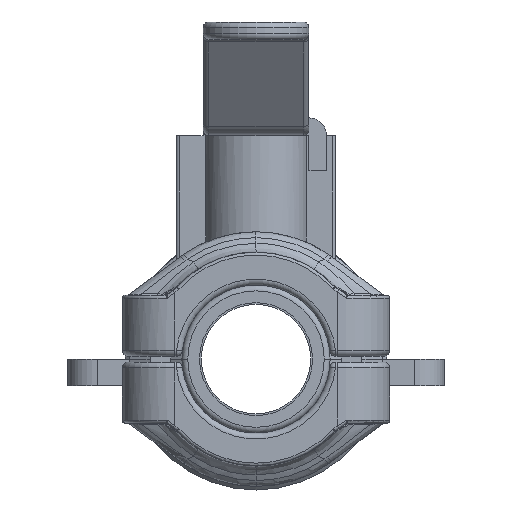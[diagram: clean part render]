
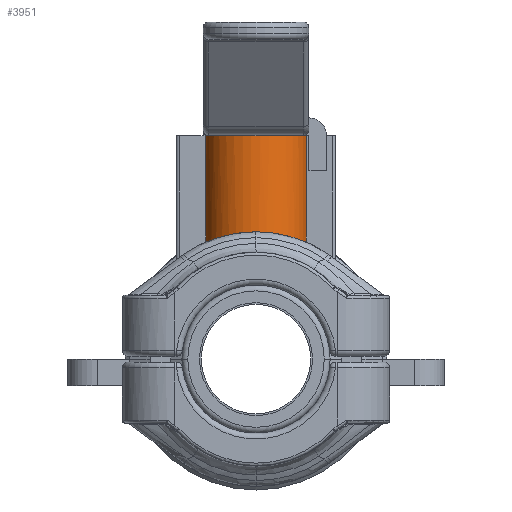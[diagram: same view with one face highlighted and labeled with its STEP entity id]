
A CAD part, left-side view. The second image highlights one B-rep face of the part: STEP entity #3951.
In plain terms, the highlighted cylindrical face has radius 9.006 mm (diameter 18.012 mm), a partial arc.
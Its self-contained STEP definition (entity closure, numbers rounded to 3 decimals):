
#781=CARTESIAN_POINT('',(55.655,0.,38.452));
#782=DIRECTION('',(0.,0.,1.));
#783=DIRECTION('',(-0.438,0.899,0.));
#784=AXIS2_PLACEMENT_3D('',#781,#782,#783);
#789=DIRECTION('',(0.,0.,1.));
#790=VECTOR('',#789,18.487);
#791=CARTESIAN_POINT('',(53.125,-8.643,19.965));
#792=LINE('',#791,#790);
#796=CARTESIAN_POINT('',(53.125,-8.643,19.965));
#797=CARTESIAN_POINT('',(52.567,-8.48,20.036));
#798=CARTESIAN_POINT('',(51.47,-8.042,20.221));
#799=CARTESIAN_POINT('',(49.938,-7.04,20.598));
#800=CARTESIAN_POINT('',(48.629,-5.733,21.004));
#801=CARTESIAN_POINT('',(47.627,-4.211,21.365));
#802=CARTESIAN_POINT('',(46.963,-2.565,21.626));
#803=CARTESIAN_POINT('',(46.635,-0.861,21.762));
#804=CARTESIAN_POINT('',(46.635,0.86,21.762));
#805=CARTESIAN_POINT('',(46.963,2.565,21.626));
#806=CARTESIAN_POINT('',(47.627,4.211,21.365));
#807=CARTESIAN_POINT('',(48.629,5.733,21.004));
#808=CARTESIAN_POINT('',(49.938,7.04,20.598));
#809=CARTESIAN_POINT('',(51.47,8.042,20.221));
#810=CARTESIAN_POINT('',(52.567,8.48,20.036));
#811=CARTESIAN_POINT('',(53.125,8.643,19.965));
#2055=DIRECTION('',(0.,0.,-1.));
#2056=VECTOR('',#2055,18.648);
#2057=CARTESIAN_POINT('',(53.125,8.643,38.614));
#2058=LINE('',#2057,#2056);
#2077=CARTESIAN_POINT('',(51.708,8.095,38.452));
#2078=CARTESIAN_POINT('',(51.936,8.206,38.452));
#2079=CARTESIAN_POINT('',(52.401,8.409,38.488));
#2080=CARTESIAN_POINT('',(52.881,8.572,38.568));
#2081=CARTESIAN_POINT('',(53.125,8.643,38.614));
#3098=VERTEX_POINT('',#796);
#3099=VERTEX_POINT('',#811);
#3142=CARTESIAN_POINT('',(53.125,-8.643,38.452));
#3143=VERTEX_POINT('',#3142);
#3239=CARTESIAN_POINT('',(51.708,8.095,38.452));
#3241=VERTEX_POINT('',#3239);
#3286=VERTEX_POINT('',#2081);
#3936=CARTESIAN_POINT('',(55.655,0.,38.452));
#3937=DIRECTION('',(0.,0.,1.));
#3938=DIRECTION('',(1.,0.,0.));
#3939=AXIS2_PLACEMENT_3D('',#3936,#3937,#3938);
#3940=CYLINDRICAL_SURFACE('',#3939,9.006);
#3942=ORIENTED_EDGE('',*,*,#3941,.F.);
#3944=ORIENTED_EDGE('',*,*,#3943,.F.);
#3945=ORIENTED_EDGE('',*,*,#3544,.T.);
#3946=ORIENTED_EDGE('',*,*,#3852,.F.);
#3948=ORIENTED_EDGE('',*,*,#3947,.T.);
#3949=EDGE_LOOP('',(#3942,#3944,#3945,#3946,#3948));
#3950=FACE_OUTER_BOUND('',#3949,.F.);
#785=CIRCLE('',#784,9.006);
#812=B_SPLINE_CURVE_WITH_KNOTS('',3,(#796,#797,#798,#799,#800,#801,#802,#803,
#804,#805,#806,#807,#808,#809,#810,#811),.UNSPECIFIED.,.F.,.F.,(4,1,1,1,1,1,1,1,
1,1,1,1,1,4),(0.,0.077,0.154,0.231,
0.308,0.385,0.462,0.538,
0.615,0.692,0.769,0.846,
0.923,1.),.UNSPECIFIED.);
#2082=B_SPLINE_CURVE_WITH_KNOTS('',3,(#2077,#2078,#2079,#2080,#2081),
.UNSPECIFIED.,.F.,.F.,(4,1,4),(0.,0.5,1.),.UNSPECIFIED.);
#3544=EDGE_CURVE('',#3241,#3143,#785,.T.);
#3852=EDGE_CURVE('',#3098,#3143,#792,.T.);
#3941=EDGE_CURVE('',#3286,#3099,#2058,.T.);
#3943=EDGE_CURVE('',#3241,#3286,#2082,.T.);
#3947=EDGE_CURVE('',#3098,#3099,#812,.T.);
#3951=ADVANCED_FACE('',(#3950),#3940,.T.);
